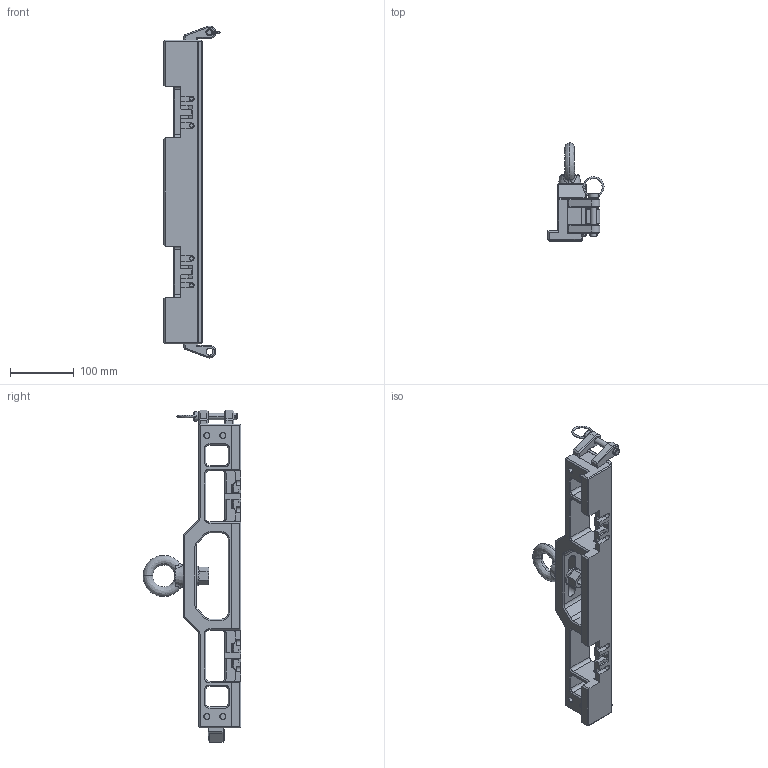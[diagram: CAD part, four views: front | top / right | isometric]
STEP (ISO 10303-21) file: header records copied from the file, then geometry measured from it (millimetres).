
FILE_DESCRIPTION((''),'2;1');
FILE_NAME('UC1C-2019-2-00_ASM_ASM','2020-03-07T12:15:58',('John'),(''),'CREO PARAMETRIC BY PTC INC, 2018050','CREO PARAMETRIC BY PTC INC, 2018050','');
FILE_SCHEMA(('CONFIG_CONTROL_DESIGN','GEOMETRIC_VALIDATION_PROPERTIES_MIM'));
Length unit declared in the file: millimetre
Products named in the file (16): 1_4_1_1_1; 9_2_1_1_1; 8_1_1_1_1; M16-DH_ASM_1_ASM_1_ASM_1_ASM_AS_ASM; 0023_ASM_1_ASM_1_ASM_ASM_2_ASM; M6-25_2_3_1; ZHUAN-A_1_1_3; TX-3-2_1_1_1; XT-3-1_1_1_1; XT-3_1_1_1; XT-3_ASM_1_ASM_1_ASM_ASM_1_ASM; 00001-1_1_3_3; ZHUAN-B_1_1_5; ASM0002_ASM_2_ASM_5_ASM_ASM_2_ASM; UC1C-2019-2-00_ASM_1_ASM; UC1C-2019-2-00_ASM_ASM
Assembly tree (18 placements, depth 6):
  UC1C-2019-2-00_ASM_ASM
    UC1C-2019-2-00_ASM_1_ASM
      ASM0002_ASM_2_ASM_5_ASM_ASM_2_ASM
        0023_ASM_1_ASM_1_ASM_ASM_2_ASM
          M16-DH_ASM_1_ASM_1_ASM_1_ASM_AS_ASM
            1_4_1_1_1
            9_2_1_1_1
            8_1_1_1_1
        M6-25_2_3_1  x4
        ZHUAN-A_1_1_3
        XT-3_ASM_1_ASM_1_ASM_ASM_1_ASM
          TX-3-2_1_1_1
          XT-3-1_1_1_1
          XT-3_1_1_1
        00001-1_1_3_3
        ZHUAN-B_1_1_5
Bounding box: 87.77 x 153.2 x 520 mm (x, y, z)
Volume: 994429.6 mm3; surface area: 192645.1 mm2
Topology: 13 solids, 15 shells, 635 faces, 1597 edges, 996 vertices
Faces by surface type: plane 331, cone 133, cylinder 133, bspline 24, torus 14
Entity records: 25031 total; most frequent: CARTESIAN_POINT 5600, DIRECTION 2975, ORIENTED_EDGE 2922, PRESENTATION_STYLE_ASSIGNMENT 1477, STYLED_ITEM 1477, CURVE_STYLE 1465, EDGE_CURVE 1465, AXIS2_PLACEMENT_3D 1014
